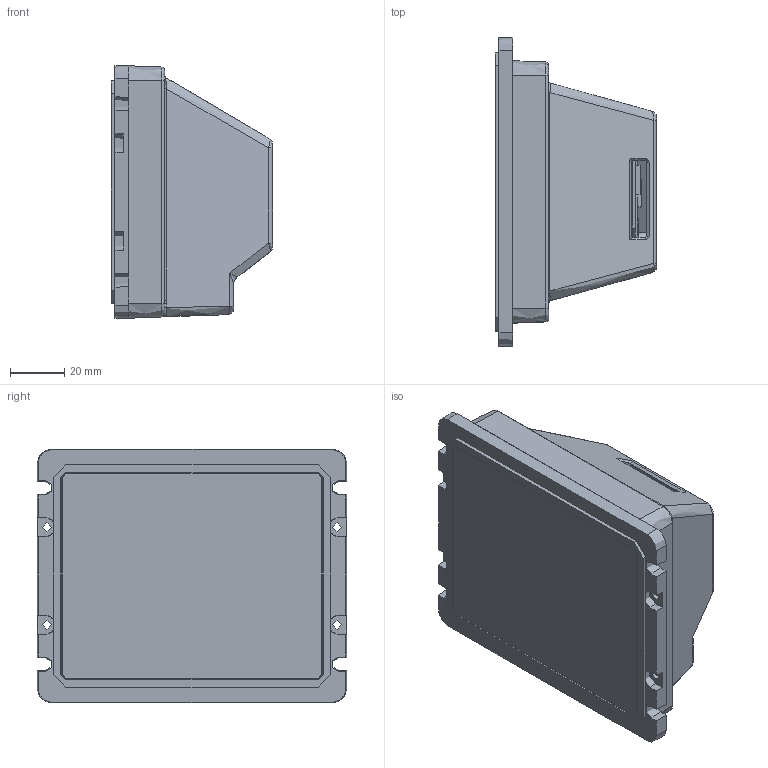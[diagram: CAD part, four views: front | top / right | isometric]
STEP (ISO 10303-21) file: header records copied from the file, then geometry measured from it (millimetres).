
FILE_DESCRIPTION(/* description */ (''),/* implementation_level */ '2;1');
FILE_NAME(/* name */ 'C:/Users/duroy/Desktop/RT860D_3D.stp',/* time_stamp */ '2024-04-01T10:35:12+08:00',/* author */ (''),/* organization */ (''),/* preprocessor_version */ 'ST-DEVELOPER v15.2',/* originating_system */ 'Autodesk Translator Framework v2.0.0.5431',/* authorisation */ '');
FILE_SCHEMA (('AUTOMOTIVE_DESIGN { 1 0 10303 214 3 1 1 }'));
Products named in the file (1): (未保存)
Bounding box: 59.4 x 114 x 93.5 mm (x, y, z)
Volume: 207842.6 mm3; surface area: 90979.4 mm2
Topology: 5 solids, 16 shells, 2523 faces, 6294 edges, 4143 vertices
Faces by surface type: plane 1840, cylinder 509, cone 86, bspline 78, torus 6, sphere 4
Full cylindrical faces by diameter (mm): 0.203 x230, 0.33 x121, 0.635 x4, 0.75 x2, 0.762 x8, 0.914 x4, 1.06 x11, 1.2 x2, 1.7 x4, 1.8 x4, 2.2 x4, 2.5 x2, 2.7 x4, 3.2 x4, 9 x1, 14.6 x1, 17.6 x1
Entity records: 76809 total; most frequent: CARTESIAN_POINT 17351, DIRECTION 11686, ORIENTED_EDGE 11536, EDGE_CURVE 5768, LINE 4228, VECTOR 4228, VERTEX_POINT 4062, EDGE_LOOP 3808
